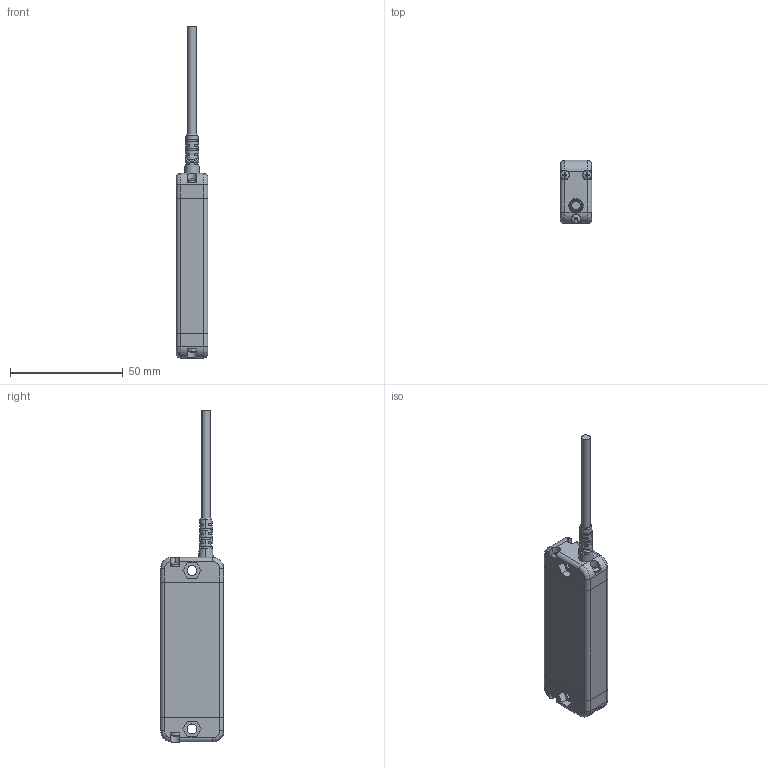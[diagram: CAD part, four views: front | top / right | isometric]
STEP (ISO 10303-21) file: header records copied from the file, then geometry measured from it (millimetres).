
FILE_DESCRIPTION (( 'STEP AP214' ), '1' );
FILE_NAME ('PG3-10RT-4.STEP', '2025-08-19T06:38:33', ( 'Windows User' ), ( 'P R C' ), 'SwSTEP 2.0', 'SolidWorks 2023', '' );
FILE_SCHEMA (( 'AUTOMOTIVE_DESIGN' ));
Length unit declared in the file: millimetre
Products named in the file (3): PG3-10RT-4; PG3-10-30; PG3后端盖
Assembly tree (2 placements, depth 2):
  PG3-10RT-4
    PG3-10-30
    PG3后端盖
Bounding box: 14 x 28 x 147.51 mm (x, y, z)
Volume: 31086.1 mm3; surface area: 10740.4 mm2
Topology: 6 solids, 6 shells, 334 faces, 882 edges, 578 vertices
Faces by surface type: plane 183, cylinder 110, bspline 22, cone 19
Entity records: 11747 total; most frequent: CARTESIAN_POINT 3752, ORIENTED_EDGE 1764, DIRECTION 1504, EDGE_CURVE 882, VERTEX_POINT 578, AXIS2_PLACEMENT_3D 546, LINE 412, VECTOR 412
